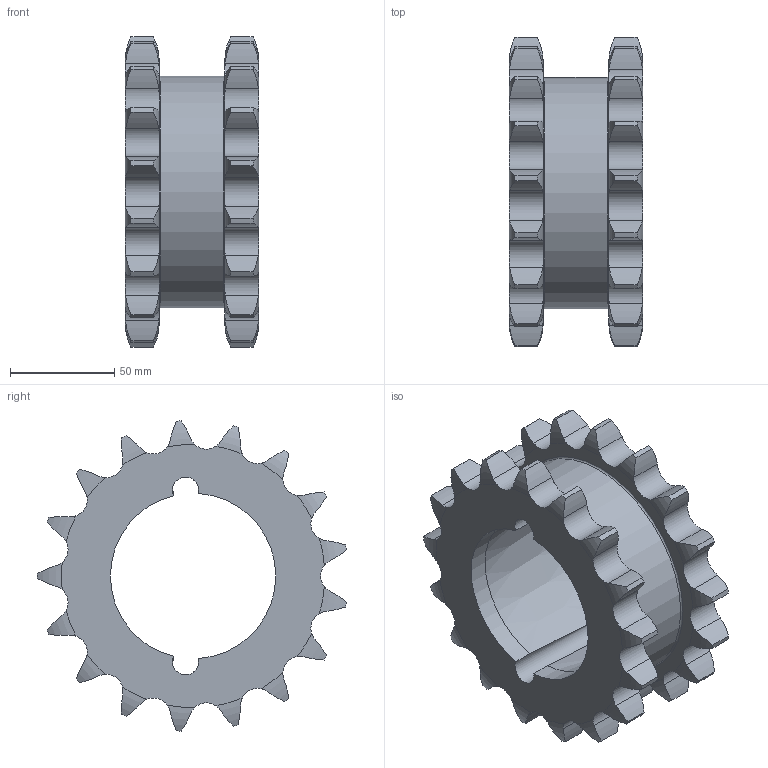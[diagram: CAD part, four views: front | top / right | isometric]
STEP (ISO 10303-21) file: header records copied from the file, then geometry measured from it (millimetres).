
FILE_DESCRIPTION(/* description */ (''),/* implementation_level */ '2;1');
FILE_NAME(/* name */ 'C:\Users\stagistaCAD\Desktop\Nuova cartella\27225017.stp',/* time_stamp */ '2018-06-25T10:00:58+02:00',/* author */ ('stagistacad'),/* organization */ (''),/* preprocessor_version */ 'ST-DEVELOPER v15.6',/* originating_system */ 'Autodesk Inventor 2015',/* authorisation */ '');
FILE_SCHEMA (('AUTOMOTIVE_DESIGN { 1 0 10303 214 3 1 1 }'));
Length unit declared in the file: millimetre
Products named in the file (1): 27225017
Bounding box: 64 x 148.29 x 148.92 mm (x, y, z)
Volume: 396013.8 mm3; surface area: 73375.1 mm2
Topology: 1 solids, 1 shells, 219 faces, 646 edges, 430 vertices
Faces by surface type: cylinder 142, torus 70, plane 4, cone 3
Full cylindrical faces by diameter (mm): 111 x1
Entity records: 8148 total; most frequent: CARTESIAN_POINT 2639, ORIENTED_EDGE 1280, DIRECTION 1022, EDGE_CURVE 640, AXIS2_PLACEMENT_3D 441, VERTEX_POINT 428, B_SPLINE_CURVE_WITH_KNOTS 279, EDGE_LOOP 226
